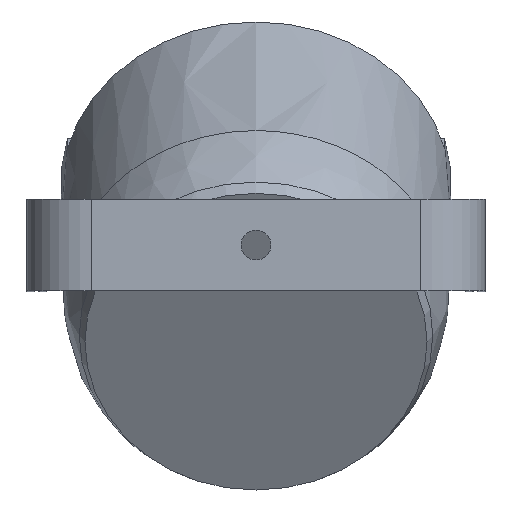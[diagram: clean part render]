
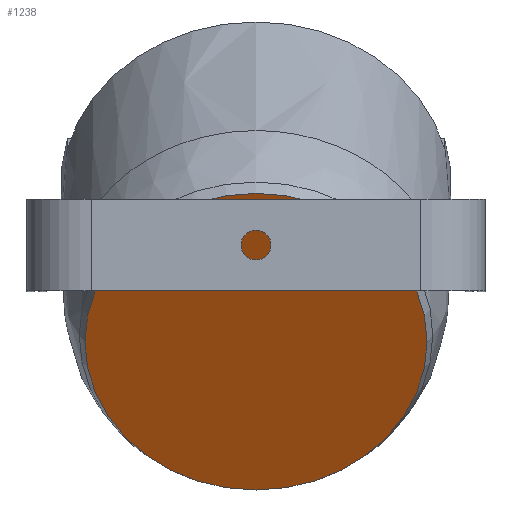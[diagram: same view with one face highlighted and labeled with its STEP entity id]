
A CAD part, top view. The second image highlights one B-rep face of the part: STEP entity #1238.
In plain terms, the highlighted planar face has unit normal (0, -0.5, 0.866) as drawn and (0, -1, 0) by its records, which use the part's own axes.
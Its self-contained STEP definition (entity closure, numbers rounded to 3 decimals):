
#149=CIRCLE('',#1475,74.58);
#215=FACE_OUTER_BOUND('',#294,.T.);
#294=EDGE_LOOP('',(#1133));
#614=VERTEX_POINT('',#2501);
#786=EDGE_CURVE('',#614,#614,#149,.T.);
#1133=ORIENTED_EDGE('',*,*,#786,.T.);
#1172=PLANE('',#1476);
#1238=ADVANCED_FACE('',(#215),#1172,.T.);
#1475=AXIS2_PLACEMENT_3D('',#2502,#1841,#1842);
#1476=AXIS2_PLACEMENT_3D('',#2506,#1843,#1844);
#1841=DIRECTION('center_axis',(0.,-1.,0.));
#1842=DIRECTION('ref_axis',(1.,0.,0.));
#1843=DIRECTION('center_axis',(0.,-1.,0.));
#1844=DIRECTION('ref_axis',(0.,0.,-1.));
#2501=CARTESIAN_POINT('',(0.,-109.8,74.58));
#2502=CARTESIAN_POINT('Origin',(0.,-109.8,0.));
#2506=CARTESIAN_POINT('Origin',(0.,-109.8,0.));
